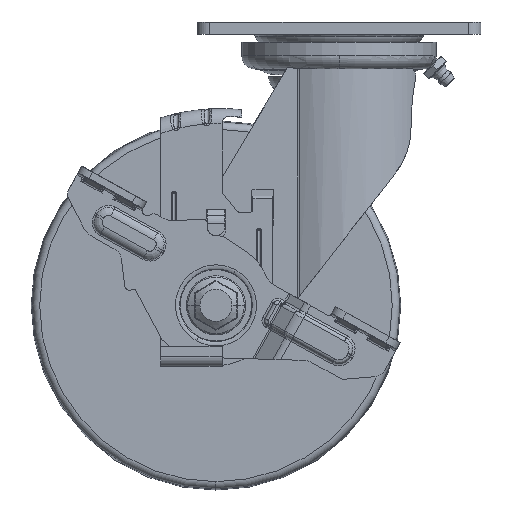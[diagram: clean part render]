
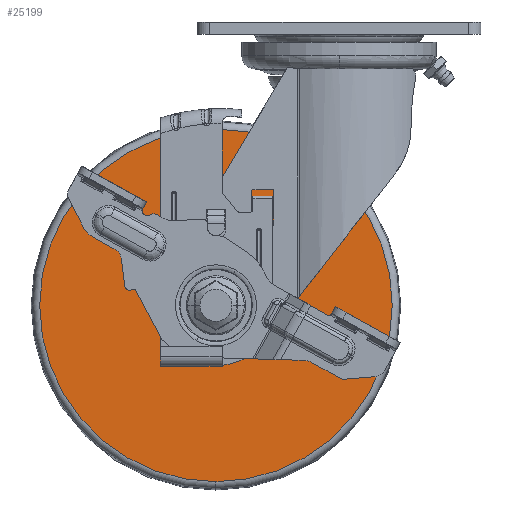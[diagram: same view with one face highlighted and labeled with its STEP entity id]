
A CAD part, front view. The second image highlights one B-rep face of the part: STEP entity #25199.
In plain terms, the highlighted planar face has unit normal (0, -1, 0) as drawn and (0, 1, 0) by its records, which use the part's own axes.
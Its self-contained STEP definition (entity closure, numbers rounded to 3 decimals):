
#1532=CARTESIAN_POINT('',(143.289,-110.285,185.352));
#1533=VERTEX_POINT('',#1532);
#1542=CARTESIAN_POINT('',(143.289,-110.285,42.24));
#1543=VERTEX_POINT('',#1542);
#1551=CARTESIAN_POINT('',(143.289,-110.285,113.796));
#1552=DIRECTION('',(0.0,-1.0,0.0));
#1553=DIRECTION('',(0.0,0.0,1.0));
#1554=AXIS2_PLACEMENT_3D('',#1551,#1552,#1553);
#1555=CIRCLE('',#1554,71.556);
#1556=EDGE_CURVE('',#1543,#1533,#1555,.T.);
#1600=CARTESIAN_POINT('',(143.289,-110.285,123.796));
#1601=VERTEX_POINT('',#1600);
#1610=CARTESIAN_POINT('',(143.289,-110.285,103.796));
#1611=VERTEX_POINT('',#1610);
#1612=CARTESIAN_POINT('',(143.289,-110.285,113.796));
#1613=DIRECTION('',(0.0,-1.0,0.0));
#1614=DIRECTION('',(0.0,0.0,1.0));
#1615=AXIS2_PLACEMENT_3D('',#1612,#1613,#1614);
#1616=CIRCLE('',#1615,10.);
#1617=EDGE_CURVE('',#1611,#1601,#1616,.T.);
#25132=CARTESIAN_POINT('',(143.289,-110.285,113.796));
#25133=DIRECTION('',(0.0,-1.0,0.0));
#25134=DIRECTION('',(0.0,0.0,1.0));
#25135=AXIS2_PLACEMENT_3D('',#25132,#25133,#25134);
#25136=CIRCLE('',#25135,10.);
#25137=EDGE_CURVE('',#1601,#1611,#25136,.T.);
#25180=CARTESIAN_POINT('',(143.289,-110.285,154.574));
#25181=DIRECTION('',(0.0,1.0,0.0));
#25182=DIRECTION('',(0.0,0.0,-1.0));
#25183=AXIS2_PLACEMENT_3D('',#25180,#25181,#25182);
#25184=PLANE('',#25183);
#25185=CARTESIAN_POINT('',(143.289,-110.285,113.796));
#25186=DIRECTION('',(0.0,-1.0,0.0));
#25187=DIRECTION('',(0.0,0.0,1.0));
#25188=AXIS2_PLACEMENT_3D('',#25185,#25186,#25187);
#25189=CIRCLE('',#25188,71.556);
#25190=EDGE_CURVE('',#1533,#1543,#25189,.T.);
#25191=ORIENTED_EDGE('',*,*,#25190,.F.);
#25192=ORIENTED_EDGE('',*,*,#1556,.F.);
#25193=EDGE_LOOP('',(#25191,#25192));
#25194=FACE_OUTER_BOUND('',#25193,.T.);
#25195=ORIENTED_EDGE('',*,*,#25137,.T.);
#25196=ORIENTED_EDGE('',*,*,#1617,.T.);
#25197=EDGE_LOOP('',(#25195,#25196));
#25198=FACE_BOUND('',#25197,.T.);
#25199=ADVANCED_FACE('',(#25194,#25198),#25184,.T.);
